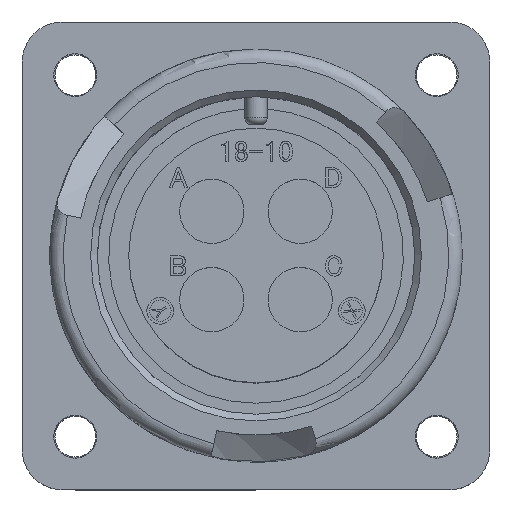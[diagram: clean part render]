
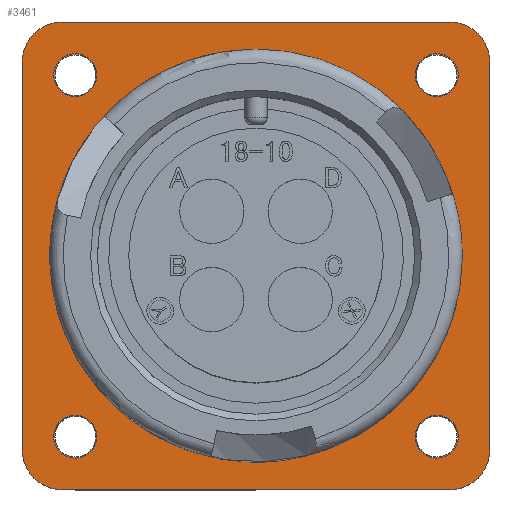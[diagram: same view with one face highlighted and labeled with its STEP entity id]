
A CAD part, top view. The second image highlights one B-rep face of the part: STEP entity #3461.
In plain terms, the highlighted planar face has unit normal (0, 0, 1).
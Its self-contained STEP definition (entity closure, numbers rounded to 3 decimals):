
#83 = CIRCLE ( 'NONE', #869, 3. ) ;
#137 = EDGE_CURVE ( 'NONE', #4622, #4622, #8082, .T. ) ;
#339 = EDGE_CURVE ( 'NONE', #18079, #18069, #16350, .T. ) ;
#359 = AXIS2_PLACEMENT_3D ( 'NONE', #21845, #4774, #6290 ) ;
#607 = DIRECTION ( 'NONE',  ( 1., 0., 0. ) ) ;
#688 = EDGE_CURVE ( 'NONE', #16153, #15606, #16634, .T. ) ;
#869 = AXIS2_PLACEMENT_3D ( 'NONE', #16035, #19277, #607 ) ;
#1294 = VECTOR ( 'NONE', #21163, 1000. ) ;
#1412 = AXIS2_PLACEMENT_3D ( 'NONE', #19918, #18261, #2769 ) ;
#1960 = EDGE_CURVE ( 'NONE', #7061, #7061, #2888, .T. ) ;
#2031 = FACE_OUTER_BOUND ( 'NONE', #14500, .T. ) ;
#2710 = AXIS2_PLACEMENT_3D ( 'NONE', #18432, #21755, #21608 ) ;
#2726 = ORIENTED_EDGE ( 'NONE', *, *, #3843, .F. ) ;
#2769 = DIRECTION ( 'NONE',  ( 0., 1., 0. ) ) ;
#2888 = CIRCLE ( 'NONE', #3565, 1.6 ) ;
#3087 = EDGE_LOOP ( 'NONE', ( #10991 ) ) ;
#3191 = CIRCLE ( 'NONE', #2710, 15.4 ) ;
#3301 = EDGE_LOOP ( 'NONE', ( #20767 ) ) ;
#3461 = ADVANCED_FACE ( 'NONE', ( #7428, #17329, #10356, #12775, #4990, #2031 ), #18573, .T. ) ;
#3565 = AXIS2_PLACEMENT_3D ( 'NONE', #21351, #6092, #12922 ) ;
#3802 = VERTEX_POINT ( 'NONE', #19376 ) ;
#3843 = EDGE_CURVE ( 'NONE', #7056, #9159, #10889, .T. ) ;
#4295 = CARTESIAN_POINT ( 'NONE',  ( -17.46, 17.46, -19.2 ) ) ;
#4618 = VERTEX_POINT ( 'NONE', #6790 ) ;
#4622 = VERTEX_POINT ( 'NONE', #10296 ) ;
#4774 = DIRECTION ( 'NONE',  ( 0., 0., 1. ) ) ;
#4990 = FACE_BOUND ( 'NONE', #3087, .T. ) ;
#5348 = DIRECTION ( 'NONE',  ( -1., 0., 0. ) ) ;
#5516 = CARTESIAN_POINT ( 'NONE',  ( 13.495, 13.495, -19.2 ) ) ;
#5562 = VERTEX_POINT ( 'NONE', #10134 ) ;
#5813 = CARTESIAN_POINT ( 'NONE',  ( -14.46, -14.46, -19.2 ) ) ;
#6092 = DIRECTION ( 'NONE',  ( 0., 0., 1. ) ) ;
#6290 = DIRECTION ( 'NONE',  ( 1., 0., 0. ) ) ;
#6344 = DIRECTION ( 'NONE',  ( 0., 1., 0. ) ) ;
#6486 = LINE ( 'NONE', #4295, #12927 ) ;
#6790 = CARTESIAN_POINT ( 'NONE',  ( 15.4, 0., -19.2 ) ) ;
#7020 = ORIENTED_EDGE ( 'NONE', *, *, #16419, .F. ) ;
#7056 = VERTEX_POINT ( 'NONE', #11613 ) ;
#7061 = VERTEX_POINT ( 'NONE', #20697 ) ;
#7428 = FACE_BOUND ( 'NONE', #19538, .T. ) ;
#7514 = DIRECTION ( 'NONE',  ( 0., 0., 1. ) ) ;
#7611 = CIRCLE ( 'NONE', #359, 3. ) ;
#7627 = EDGE_CURVE ( 'NONE', #16153, #5562, #83, .T. ) ;
#7767 = CIRCLE ( 'NONE', #8520, 3. ) ;
#8037 = CIRCLE ( 'NONE', #12144, 1.6 ) ;
#8082 = CIRCLE ( 'NONE', #1412, 1.6 ) ;
#8256 = DIRECTION ( 'NONE',  ( 0., 0., 1. ) ) ;
#8520 = AXIS2_PLACEMENT_3D ( 'NONE', #19362, #7514, #10866 ) ;
#8584 = DIRECTION ( 'NONE',  ( 1., 0., 0. ) ) ;
#8887 = ORIENTED_EDGE ( 'NONE', *, *, #12118, .F. ) ;
#9002 = DIRECTION ( 'NONE',  ( 1., 0., 0. ) ) ;
#9125 = DIRECTION ( 'NONE',  ( 0., -1., 0. ) ) ;
#9159 = VERTEX_POINT ( 'NONE', #15913 ) ;
#9754 = CARTESIAN_POINT ( 'NONE',  ( -14.46, 17.46, -19.2 ) ) ;
#9987 = AXIS2_PLACEMENT_3D ( 'NONE', #18865, #22129, #8584 ) ;
#10134 = CARTESIAN_POINT ( 'NONE',  ( -17.46, 14.46, -19.2 ) ) ;
#10296 = CARTESIAN_POINT ( 'NONE',  ( -13.495, 15.095, -19.2 ) ) ;
#10356 = FACE_BOUND ( 'NONE', #13182, .T. ) ;
#10397 = ORIENTED_EDGE ( 'NONE', *, *, #1960, .F. ) ;
#10866 = DIRECTION ( 'NONE',  ( 1., 0., 0. ) ) ;
#10889 = LINE ( 'NONE', #13915, #18434 ) ;
#10991 = ORIENTED_EDGE ( 'NONE', *, *, #14239, .T. ) ;
#11019 = ORIENTED_EDGE ( 'NONE', *, *, #14882, .T. ) ;
#11613 = CARTESIAN_POINT ( 'NONE',  ( 14.46, -17.46, -19.2 ) ) ;
#11788 = CIRCLE ( 'NONE', #15536, 3. ) ;
#11828 = CIRCLE ( 'NONE', #12074, 1.6 ) ;
#12074 = AXIS2_PLACEMENT_3D ( 'NONE', #5516, #19422, #9002 ) ;
#12118 = EDGE_CURVE ( 'NONE', #12349, #5562, #6486, .T. ) ;
#12144 = AXIS2_PLACEMENT_3D ( 'NONE', #19340, #19404, #9125 ) ;
#12349 = VERTEX_POINT ( 'NONE', #19383 ) ;
#12775 = FACE_BOUND ( 'NONE', #3301, .T. ) ;
#12824 = EDGE_CURVE ( 'NONE', #13497, #13497, #11828, .T. ) ;
#12922 = DIRECTION ( 'NONE',  ( -1., 0., 0. ) ) ;
#12927 = VECTOR ( 'NONE', #6344, 1000. ) ;
#13182 = EDGE_LOOP ( 'NONE', ( #20926 ) ) ;
#13497 = VERTEX_POINT ( 'NONE', #16979 ) ;
#13915 = CARTESIAN_POINT ( 'NONE',  ( -17.46, -17.46, -19.2 ) ) ;
#14239 = EDGE_CURVE ( 'NONE', #4618, #4618, #3191, .T. ) ;
#14446 = CARTESIAN_POINT ( 'NONE',  ( -17.46, 17.46, -19.2 ) ) ;
#14500 = EDGE_LOOP ( 'NONE', ( #2726, #11019, #20471, #14991, #16508, #14772, #8887, #14780 ) ) ;
#14772 = ORIENTED_EDGE ( 'NONE', *, *, #7627, .T. ) ;
#14780 = ORIENTED_EDGE ( 'NONE', *, *, #14818, .T. ) ;
#14818 = EDGE_CURVE ( 'NONE', #12349, #9159, #11788, .T. ) ;
#14882 = EDGE_CURVE ( 'NONE', #7056, #18069, #7767, .T. ) ;
#14991 = ORIENTED_EDGE ( 'NONE', *, *, #21895, .T. ) ;
#15536 = AXIS2_PLACEMENT_3D ( 'NONE', #5813, #8256, #19951 ) ;
#15606 = VERTEX_POINT ( 'NONE', #20262 ) ;
#15913 = CARTESIAN_POINT ( 'NONE',  ( -14.46, -17.46, -19.2 ) ) ;
#16035 = CARTESIAN_POINT ( 'NONE',  ( -14.46, 14.46, -19.2 ) ) ;
#16153 = VERTEX_POINT ( 'NONE', #9754 ) ;
#16350 = LINE ( 'NONE', #20935, #19585 ) ;
#16419 = EDGE_CURVE ( 'NONE', #3802, #3802, #8037, .T. ) ;
#16508 = ORIENTED_EDGE ( 'NONE', *, *, #688, .F. ) ;
#16634 = LINE ( 'NONE', #14446, #1294 ) ;
#16924 = CARTESIAN_POINT ( 'NONE',  ( 17.46, 14.46, -19.2 ) ) ;
#16979 = CARTESIAN_POINT ( 'NONE',  ( 15.095, 13.495, -19.2 ) ) ;
#17285 = DIRECTION ( 'NONE',  ( 0., -1., 0. ) ) ;
#17329 = FACE_BOUND ( 'NONE', #22092, .T. ) ;
#18069 = VERTEX_POINT ( 'NONE', #20710 ) ;
#18079 = VERTEX_POINT ( 'NONE', #16924 ) ;
#18261 = DIRECTION ( 'NONE',  ( 0., 0., 1. ) ) ;
#18432 = CARTESIAN_POINT ( 'NONE',  ( 0., 0., -19.2 ) ) ;
#18434 = VECTOR ( 'NONE', #5348, 1000. ) ;
#18573 = PLANE ( 'NONE',  #9987 ) ;
#18865 = CARTESIAN_POINT ( 'NONE',  ( -17.46, -17.46, -19.2 ) ) ;
#19277 = DIRECTION ( 'NONE',  ( 0., 0., 1. ) ) ;
#19340 = CARTESIAN_POINT ( 'NONE',  ( 13.495, -13.495, -19.2 ) ) ;
#19362 = CARTESIAN_POINT ( 'NONE',  ( 14.46, -14.46, -19.2 ) ) ;
#19376 = CARTESIAN_POINT ( 'NONE',  ( 13.495, -15.095, -19.2 ) ) ;
#19383 = CARTESIAN_POINT ( 'NONE',  ( -17.46, -14.46, -19.2 ) ) ;
#19404 = DIRECTION ( 'NONE',  ( 0., 0., 1. ) ) ;
#19422 = DIRECTION ( 'NONE',  ( 0., 0., 1. ) ) ;
#19538 = EDGE_LOOP ( 'NONE', ( #7020 ) ) ;
#19585 = VECTOR ( 'NONE', #17285, 1000. ) ;
#19918 = CARTESIAN_POINT ( 'NONE',  ( -13.495, 13.495, -19.2 ) ) ;
#19951 = DIRECTION ( 'NONE',  ( 1., 0., 0. ) ) ;
#20262 = CARTESIAN_POINT ( 'NONE',  ( 14.46, 17.46, -19.2 ) ) ;
#20471 = ORIENTED_EDGE ( 'NONE', *, *, #339, .F. ) ;
#20697 = CARTESIAN_POINT ( 'NONE',  ( -15.095, -13.495, -19.2 ) ) ;
#20710 = CARTESIAN_POINT ( 'NONE',  ( 17.46, -14.46, -19.2 ) ) ;
#20767 = ORIENTED_EDGE ( 'NONE', *, *, #12824, .F. ) ;
#20926 = ORIENTED_EDGE ( 'NONE', *, *, #137, .F. ) ;
#20935 = CARTESIAN_POINT ( 'NONE',  ( 17.46, 17.46, -19.2 ) ) ;
#21163 = DIRECTION ( 'NONE',  ( 1., 0., 0. ) ) ;
#21351 = CARTESIAN_POINT ( 'NONE',  ( -13.495, -13.495, -19.2 ) ) ;
#21608 = DIRECTION ( 'NONE',  ( 1., 0., 0. ) ) ;
#21755 = DIRECTION ( 'NONE',  ( 0., 0., -1. ) ) ;
#21845 = CARTESIAN_POINT ( 'NONE',  ( 14.46, 14.46, -19.2 ) ) ;
#21895 = EDGE_CURVE ( 'NONE', #18079, #15606, #7611, .T. ) ;
#22092 = EDGE_LOOP ( 'NONE', ( #10397 ) ) ;
#22129 = DIRECTION ( 'NONE',  ( 0., 0., 1. ) ) ;
